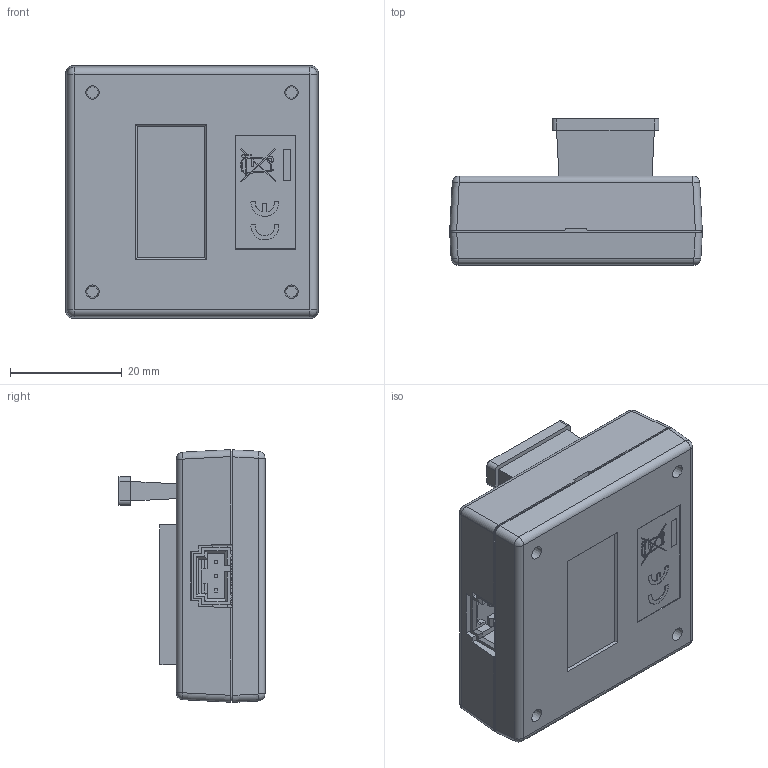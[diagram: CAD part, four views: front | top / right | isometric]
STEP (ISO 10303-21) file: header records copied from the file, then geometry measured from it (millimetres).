
FILE_DESCRIPTION(/* description */ ('Alibre Inc.'),/* implementation_level */ '2;1');
FILE_NAME(/* name */ 'export0',/* time_stamp */ '2018-02-15T11:44:52-07:00',/* author */ (''),/* organization */ (''),/* preprocessor_version */ 'ST-DEVELOPER v14',/* originating_system */ 'Alibre',/* authorisation */ '');
FILE_SCHEMA (('CONFIG_CONTROL_DESIGN'));
Length unit declared in the file: centimetre
Products named in the file (144): ID_1; ID_2; ID_3; ID_4; ID_5; ID_6; ID_7; ID_8; ID_9; ID_10; ID_11; ID_12; ID_13; ID_14; ID_15; ID_16; ID_17; ID_18; ID_19; ID_20; ID_21; ID_22; ID_23; ID_24; ID_25; ID_26; ID_27; ID_28; ID_29; ID_30; ID_31; ID_32; ID_33; ID_34; ID_35; ID_36; ID_37; ID_38; ID_39; ID_40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
Bounding box: 45.11 x 26.09 x 45.12 mm (x, y, z)
Volume: 17641.1 mm3; surface area: 25316.5 mm2
Topology: 207 solids, 207 shells, 3035 faces, 7524 edges, 4935 vertices
Faces by surface type: plane 2641, cylinder 300, bspline 38, cone 24, revolution 24, sphere 8
Full cylindrical faces by diameter (mm): 0.6 x4, 0.965 x3, 1 x2, 1.067 x2, 1.321 x6, 1.575 x4, 1.778 x4, 3 x4, 3.099 x4, 3.175 x4, 8 x1
Entity records: 58313 total; most frequent: CARTESIAN_POINT 9885, ORIENTED_EDGE 6386, DIRECTION 5905, EDGE_CURVE 3193, VECTOR 2582, LINE 2582, AXIS2_PLACEMENT_3D 2118, VERTEX_POINT 2103
